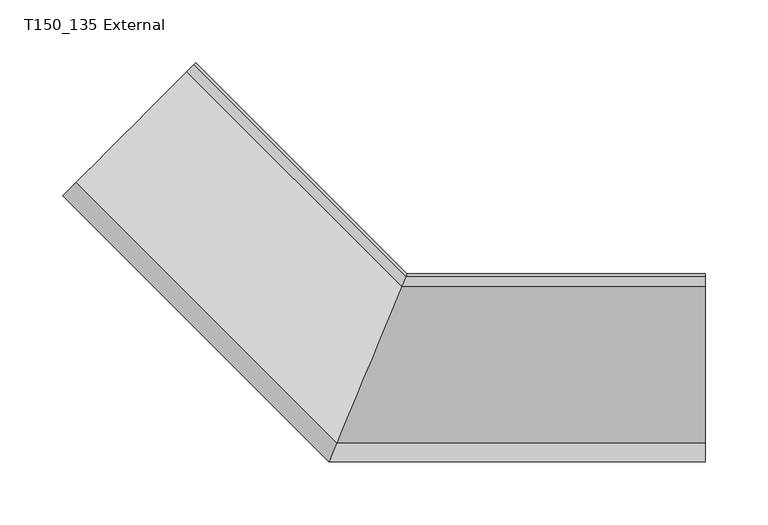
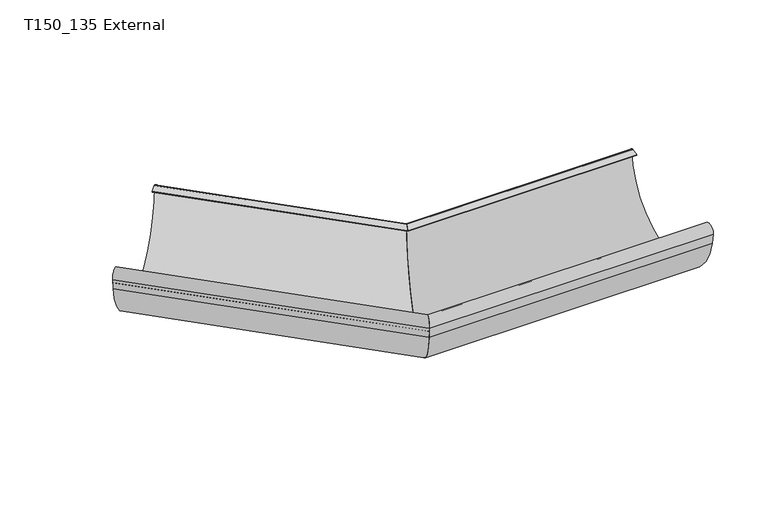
"""IFC4 building model written with IfcOpenShell, lengths in millimetres: proxy geometry, GROVIK_Gutter_Corner : T150_135 External."""

from ifc_helpers import new_model, si_unit, frame, origin, place, context, project, spatial, polyline, circle_curve, ellipse_curve, source, transform, mapped, element, save
from ifc_brep_helpers import plane_surface, cylinder_surface, revolved_surface, advanced_brep


def t150_135_external_eda57ce1(model_context):
    return source(origin(), model_context, "Body", "AdvancedBrep", [
        advanced_brep(
        [(-4.1190209, -9.9441961, -1.4092855), (-4.0533893, -9.7857475, -2.295228), (-0.9516586, -2.2975071, -0.9559749), (-0.415851, -1.0039531, -2.0540157), (-61.0790929, -147.4579744, -16.0293209), (-61.7570453, -149.0946963, -5.3813466), (-60.8707962, -146.9551017, -9.9710741), (-61.0693166, -147.4343725, -8.9478528), (-61.3036072, -148.0, -5.4006666), (-61.6712296, -148.8875189, -5.5500325), (-61.4429398, -148.3363785, -9.0063664), (-61.13463, -147.5920528, -10.6080252), (-62.1320344, -150.0, -5.2006666), (-61.4847081, -148.4372161, -16.2320172), (0.0, 0.0, -1.8), (-0.9113007, -2.2000746, -0.0242687), (-169.7537392, 166.6423639, -0.0242687), (-168.1980515, 168.1980515, -1.8), (-273.1590136, 63.2370895, -16.2320172), (-274.2640687, 62.1320344, -5.2006666), (-272.5613929, 63.8347102, -10.6080252), (-273.0877107, 63.3083924, -9.0063664), (-273.4774258, 62.9186773, -5.5500325), (-272.8498551, 63.5462479, -5.4006666), (-272.4498961, 63.946207, -8.9478528), (-272.1110005, 64.2851026, -9.9710741), (-273.6239223, 62.7721808, -5.3813466), (-272.4665852, 63.9295179, -16.0293209), (-168.9073737, 167.4887294, -2.054027), (-169.8226344, 166.5734687, -0.9559749), (-175.1176199, 161.2784831, -2.295228), (-175.22966, 161.1664431, -1.4092855)],
        [
            (0, 1),
            (1, 2),
            (2, 3, ellipse_curve(frame((-0.8714423, -2.1038477, -2.0387934), z_axis=(-0.9238795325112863, 0.38268343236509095, 0.0), x_axis=(-0.382683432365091, -0.9238795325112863, 0.0)), 1.1906314, 1.1)),
            (3, 4, ellipse_curve(frame((-31.0639705, -74.995059, -1.03), z_axis=(-0.9238795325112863, 0.38268343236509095, 0.0), x_axis=(-0.382683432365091, -0.9238795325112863, 0.0)), 80.0959532, 73.9990118)),
            (4, 5),
            (5, 6, ellipse_curve(frame((-59.0254326, -142.5, -5.1006666), z_axis=(-0.9238795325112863, 0.38268343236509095, 0.0), x_axis=(-0.382683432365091, -0.9238795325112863, 0.0)), 7.1445101, 6.6006666)),
            (6, 7, ellipse_curve(frame((-60.2328683, -145.4150076, -8.6258487), z_axis=(-0.9238795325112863, 0.38268343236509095, 0.0), x_axis=(-0.382683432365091, -0.9238795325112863, 0.0)), 2.2133587, 2.0448768)),
            (7, 8),
            (8, 9),
            (9, 10),
            (10, 11, ellipse_curve(frame((-60.1216116, -145.1464101, -8.4977001), z_axis=(0.9238795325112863, -0.38268343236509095, 0.0), x_axis=(0.382683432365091, 0.9238795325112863, 0.0)), 3.4964184, 3.2302694)),
            (11, 12, ellipse_curve(frame((-59.0254326, -142.5, -5.1006666), z_axis=(0.9238795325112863, -0.38268343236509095, 0.0), x_axis=(0.382683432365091, 0.9238795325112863, 0.0)), 8.1186631, 7.5006666)),
            (12, 13),
            (13, 14, ellipse_curve(frame((-31.0639705, -74.995059, -1.03), z_axis=(0.9238795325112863, -0.38268343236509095, 0.0), x_axis=(0.382683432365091, 0.9238795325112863, 0.0)), 81.1783454, 74.9990118)),
            (14, 15, ellipse_curve(frame((-0.785915, -1.8973666, -1.9), z_axis=(0.9238795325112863, -0.38268343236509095, 0.0), x_axis=(0.382683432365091, 0.9238795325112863, 0.0)), 2.0565452, 1.9)),
            (15, 0),
            (16, 17, circle_curve(frame((-169.5396923, 166.8564107, -1.9), z_axis=(-0.707106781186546, 0.7071067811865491, 0.0), x_axis=(-0.7071067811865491, -0.707106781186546, 0.0)), 1.9)),
            (17, 18, circle_curve(frame((-221.2275663, 115.1685368, -1.03), z_axis=(-0.707106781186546, 0.7071067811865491, 0.0), x_axis=(0.7071067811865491, 0.707106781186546, 0.0)), 74.9990118)),
            (18, 19),
            (19, 20, circle_curve(frame((-268.9607679, 67.4353352, -5.1006666), z_axis=(-0.707106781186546, 0.7071067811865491, 0.0), x_axis=(-0.7071067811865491, -0.707106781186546, 0.0)), 7.5006666)),
            (20, 21, circle_curve(frame((-270.8320624, 65.5640407, -8.4977001), z_axis=(-0.707106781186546, 0.7071067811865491, 0.0), x_axis=(-0.7071067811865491, -0.707106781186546, 0.0)), 3.2302694)),
            (21, 22),
            (22, 23),
            (23, 24),
            (24, 25, circle_curve(frame((-271.0219895, 65.3741136, -8.6258487), z_axis=(0.707106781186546, -0.7071067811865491, 0.0), x_axis=(-0.7071067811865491, -0.707106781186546, 0.0)), 2.0448768)),
            (25, 26, circle_curve(frame((-268.9607679, 67.4353352, -5.1006666), z_axis=(0.707106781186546, -0.7071067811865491, 0.0), x_axis=(-0.7071067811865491, -0.707106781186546, 0.0)), 6.6006666)),
            (26, 27),
            (27, 28, circle_curve(frame((-221.2275663, 115.1685368, -1.03), z_axis=(0.707106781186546, -0.7071067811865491, 0.0), x_axis=(0.7071067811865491, 0.707106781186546, 0.0)), 73.9990118)),
            (28, 29, circle_curve(frame((-169.6856965, 166.7104065, -2.0387934), z_axis=(0.707106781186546, -0.7071067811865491, 0.0), x_axis=(-0.7071067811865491, -0.707106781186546, 0.0)), 1.1)),
            (29, 30),
            (30, 31),
            (31, 16),
            (31, 0),
            (15, 16),
            (30, 1),
            (29, 2),
            (28, 3),
            (27, 4),
            (26, 5),
            (25, 6),
            (24, 7),
            (23, 8),
            (22, 9),
            (21, 10),
            (20, 11),
            (19, 12),
            (18, 13),
            (17, 14),
        ],
        [
            plane_surface(frame((-82.8427125, -200.0, 250.0), z_axis=(0.9238795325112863, -0.38268343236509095, 0.0), x_axis=(0.0, 0.0, -1.0))),
            plane_surface(frame((-168.1980515, 168.1980515, 0.0), z_axis=(-0.707106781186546, 0.7071067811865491, 0.0), x_axis=(0.0, 0.0, 1.0))),
            plane_surface(frame((-169.7537392, 166.6423639, -0.0242687), z_axis=(-0.12448897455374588, -0.12448897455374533, 0.9843805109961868), x_axis=(0.707106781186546, -0.7071067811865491, 0.0))),
            plane_surface(frame((-175.22966, 161.1664431, -1.4092855), z_axis=(-0.6960621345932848, -0.6960621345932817, -0.17605399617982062), x_axis=(0.707106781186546, -0.7071067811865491, 0.0))),
            plane_surface(frame((-175.1176199, 161.2784831, -2.295228), z_axis=(0.12448897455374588, 0.12448897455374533, -0.9843805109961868), x_axis=(0.707106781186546, -0.7071067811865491, 0.0))),
            revolved_surface(polyline([(-1.327077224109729, -3.2038476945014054, -2.0387934), (-170.46351400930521, 165.93258909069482, -2.0387934)]), (-169.6856965, 166.7104065, -2.0387934), (0.707106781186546, -0.7071067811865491, 0.0)),
            revolved_surface(polyline([(42.935041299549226, -44.34366470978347, -1.03), (-168.90236325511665, 167.49373984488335, -1.03)]), (-221.2275663, 115.1685368, -1.03), (0.707106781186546, -0.7071067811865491, 0.0)),
            plane_surface(frame((-272.4665852, 63.9295179, -16.0293209), z_axis=(0.6988984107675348, 0.6988984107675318, 0.1519276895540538), x_axis=(0.707106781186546, -0.7071067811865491, 0.0))),
            revolved_surface(polyline([(-61.75951826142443, -149.1006666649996, -5.1006666), (-273.62814401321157, 62.76795908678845, -5.1006666)]), (-268.9607679, 67.4353352, -5.1006666), (0.707106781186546, -0.7071067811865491, 0.0)),
            revolved_surface(polyline([(-61.07988400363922, -147.45988440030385, -8.6258487), (-272.4679357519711, 63.92816734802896, -8.6258487)]), (-271.0219895, 65.3741136, -8.6258487), (0.707106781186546, -0.7071067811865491, 0.0)),
            plane_surface(frame((-272.4498961, 63.946207, -8.9478528), z_axis=(0.6982849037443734, 0.6982849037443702, 0.15746868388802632), x_axis=(0.707106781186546, -0.7071067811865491, 0.0))),
            plane_surface(frame((-272.8498551, 63.5462479, -5.4006666), z_axis=(-0.11735288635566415, -0.11735288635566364, 0.9861321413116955), x_axis=(0.707106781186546, -0.7071067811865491, 0.0))),
            plane_surface(frame((-273.4774258, 62.9186773, -5.5500325), z_axis=(-0.6982849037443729, -0.6982849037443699, -0.1574686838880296), x_axis=(0.707106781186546, -0.7071067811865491, 0.0))),
            cylinder_surface(frame((-270.8320624, 65.5640407, -8.4977001), z_axis=(-0.707106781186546, 0.7071067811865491, 0.0), x_axis=(-0.7071067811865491, -0.707106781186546, 0.0)), 3.2302694),
            cylinder_surface(frame((-268.9607679, 67.4353352, -5.1006666), z_axis=(-0.707106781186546, 0.7071067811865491, 0.0), x_axis=(-0.7071067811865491, -0.707106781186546, 0.0)), 7.5006666),
            plane_surface(frame((-274.2640687, 62.1320344, -5.2006666), z_axis=(-0.7001161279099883, -0.7001161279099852, -0.14026694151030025), x_axis=(0.707106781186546, -0.7071067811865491, 0.0))),
            cylinder_surface(frame((-221.2275663, 115.1685368, -1.03), z_axis=(-0.707106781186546, 0.7071067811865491, 0.0), x_axis=(0.7071067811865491, 0.707106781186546, 0.0)), 74.9990118),
            cylinder_surface(frame((-169.5396923, 166.8564107, -1.9), z_axis=(-0.707106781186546, 0.7071067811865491, 0.0), x_axis=(-0.7071067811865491, -0.707106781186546, 0.0)), 1.9),
        ],
        [
            (0, [[1, 2, 3, 4, 5, 6, 7, 8, 9, 10, 11, 12, 13, 14, 15, 16]]),
            (1, [[17, 18, 19, 20, 21, 22, 23, 24, 25, 26, 27, 28, 29, 30, 31, 32]]),
            (2, [[33, -16, 34, -32]]),
            (3, [[35, -1, -33, -31]]),
            (4, [[36, -2, -35, -30]]),
            (5, [[37, -3, -36, -29]]),
            (6, [[38, -4, -37, -28]]),
            (7, [[39, -5, -38, -27]]),
            (8, [[40, -6, -39, -26]]),
            (9, [[41, -7, -40, -25]]),
            (10, [[42, -8, -41, -24]]),
            (11, [[43, -9, -42, -23]]),
            (12, [[44, -10, -43, -22]]),
            (13, [[45, -11, -44, -21]]),
            (14, [[46, -12, -45, -20]]),
            (15, [[47, -13, -46, -19]]),
            (16, [[48, -14, -47, -18]]),
            (17, [[-34, -15, -48, -17]]),
        ],
    ),
        advanced_brep(
        [(-4.1190209, -9.9441961, -1.4092855), (-0.9113007, -2.2000746, -0.0242687), (0.0, 0.0, -1.8), (-61.4847081, -148.4372161, -16.2320172), (-62.1320344, -150.0, -5.2006666), (-61.13463, -147.5920528, -10.6080252), (-61.4429398, -148.3363785, -9.0063664), (-61.6712296, -148.8875189, -5.5500325), (-61.3036072, -148.0, -5.4006666), (-61.0693166, -147.4343725, -8.9478528), (-60.8707962, -146.9551017, -9.9710741), (-61.7570453, -149.0946963, -5.3813466), (-61.0790929, -147.4579744, -16.0293209), (-0.4155113, -1.003133, -2.054027), (-0.9516586, -2.2975071, -0.9559749), (-4.0533893, -9.7857475, -2.295228), (237.8679656, -2.2000746, -0.0242687), (237.8679656, -9.9441961, -1.4092855), (237.8679656, -9.7857475, -2.295228), (237.8679656, -2.2975071, -0.9559749), (237.8679656, -1.0039531, -2.0540157), (237.8679656, -147.4579744, -16.0293209), (237.8679656, -149.0946963, -5.3813466), (237.8679656, -146.9551017, -9.9710741), (237.8679656, -147.4343725, -8.9478528), (237.8679656, -148.0, -5.4006666), (237.8679656, -148.8875189, -5.5500325), (237.8679656, -148.3363785, -9.0063664), (237.8679656, -147.5920528, -10.6080252), (237.8679656, -150.0, -5.2006666), (237.8679656, -148.4372161, -16.2320172), (237.8679656, 0.0, -1.8)],
        [
            (0, 1),
            (1, 2, ellipse_curve(frame((-0.785915, -1.8973666, -1.9), z_axis=(-0.9238795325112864, 0.38268343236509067, 0.0), x_axis=(0.3826834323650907, 0.9238795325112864, 0.0)), 2.0565452, 1.9)),
            (2, 3, ellipse_curve(frame((-31.0639705, -74.995059, -1.03), z_axis=(-0.9238795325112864, 0.38268343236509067, 0.0), x_axis=(0.3826834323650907, 0.9238795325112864, 0.0)), 81.1783454, 74.9990118)),
            (3, 4),
            (4, 5, ellipse_curve(frame((-59.0254326, -142.5, -5.1006666), z_axis=(-0.9238795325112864, 0.38268343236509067, 0.0), x_axis=(0.3826834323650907, 0.9238795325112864, 0.0)), 8.1186631, 7.5006666)),
            (5, 6, ellipse_curve(frame((-60.1216116, -145.1464101, -8.4977001), z_axis=(-0.9238795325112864, 0.38268343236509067, 0.0), x_axis=(0.3826834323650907, 0.9238795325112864, 0.0)), 3.4964184, 3.2302694)),
            (6, 7),
            (7, 8),
            (8, 9),
            (9, 10, ellipse_curve(frame((-60.2328683, -145.4150076, -8.6258487), z_axis=(0.9238795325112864, -0.38268343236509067, 0.0), x_axis=(-0.3826834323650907, -0.9238795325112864, 0.0)), 2.2133587, 2.0448768)),
            (10, 11, ellipse_curve(frame((-59.0254326, -142.5, -5.1006666), z_axis=(0.9238795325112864, -0.38268343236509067, 0.0), x_axis=(-0.3826834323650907, -0.9238795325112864, 0.0)), 7.1445101, 6.6006666)),
            (11, 12),
            (12, 13, ellipse_curve(frame((-31.0639705, -74.995059, -1.03), z_axis=(0.9238795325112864, -0.38268343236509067, 0.0), x_axis=(-0.3826834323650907, -0.9238795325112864, 0.0)), 80.0959532, 73.9990118)),
            (13, 14, ellipse_curve(frame((-0.8714423, -2.1038477, -2.0387934), z_axis=(0.9238795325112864, -0.38268343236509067, 0.0), x_axis=(-0.3826834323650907, -0.9238795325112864, 0.0)), 1.1906314, 1.1)),
            (14, 15),
            (15, 0),
            (16, 17),
            (17, 18),
            (18, 19),
            (19, 20, circle_curve(frame((237.8679656, -2.1038477, -2.0387934), z_axis=(-1.0, 0.0, 0.0), x_axis=(0.0, -1.0, 0.0)), 1.1)),
            (20, 21, circle_curve(frame((237.8679656, -74.995059, -1.03), z_axis=(-1.0, 0.0, 0.0), x_axis=(0.0, 1.0, 0.0)), 73.9990118)),
            (21, 22),
            (22, 23, circle_curve(frame((237.8679656, -142.5, -5.1006666), z_axis=(-1.0, 0.0, 0.0), x_axis=(0.0, -1.0, 0.0)), 6.6006666)),
            (23, 24, circle_curve(frame((237.8679656, -145.4150076, -8.6258487), z_axis=(-1.0, 0.0, 0.0), x_axis=(0.0, -1.0, 0.0)), 2.0448768)),
            (24, 25),
            (25, 26),
            (26, 27),
            (27, 28, circle_curve(frame((237.8679656, -145.1464101, -8.4977001), z_axis=(1.0, 0.0, 0.0), x_axis=(0.0, -1.0, 0.0)), 3.2302694)),
            (28, 29, circle_curve(frame((237.8679656, -142.5, -5.1006666), z_axis=(1.0, 0.0, 0.0), x_axis=(0.0, -1.0, 0.0)), 7.5006666)),
            (29, 30),
            (30, 31, circle_curve(frame((237.8679656, -74.995059, -1.03), z_axis=(1.0, 0.0, 0.0), x_axis=(0.0, 1.0, 0.0)), 74.9990118)),
            (31, 16, circle_curve(frame((237.8679656, -1.8973666, -1.9), z_axis=(1.0, 0.0, 0.0), x_axis=(0.0, -1.0, 0.0)), 1.9)),
            (16, 1),
            (0, 17),
            (15, 18),
            (14, 19),
            (13, 20),
            (12, 21),
            (11, 22),
            (10, 23),
            (9, 24),
            (8, 25),
            (7, 26),
            (6, 27),
            (5, 28),
            (4, 29),
            (3, 30),
            (2, 31),
        ],
        [
            plane_surface(frame((-82.8427125, -200.0, 250.0), z_axis=(-0.9238795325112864, 0.38268343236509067, 0.0), x_axis=(0.0, 0.0, -1.0))),
            plane_surface(frame((237.8679656, 0.0, 0.0), z_axis=(1.0, 0.0, 0.0), x_axis=(0.0, 0.0, 1.0))),
            plane_surface(frame((237.8679656, -2.2000746, -0.0242687), z_axis=(0.0, -0.17605399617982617, 0.9843805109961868), x_axis=(-1.0, 0.0, 0.0))),
            plane_surface(frame((237.8679656, -9.9441961, -1.4092855), z_axis=(0.0, -0.9843805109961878, -0.1760539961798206), x_axis=(-1.0, 0.0, 0.0))),
            plane_surface(frame((237.8679656, -9.7857475, -2.295228), z_axis=(0.0, 0.17605399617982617, -0.9843805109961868), x_axis=(-1.0, 0.0, 0.0))),
            revolved_surface(polyline([(-1.3270772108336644, -3.2038477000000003, -2.0387934), (237.8679656, -3.2038477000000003, -2.0387934)]), (237.8679656, -2.1038477, -2.0387934), (-1.0, 0.0, 0.0)),
            revolved_surface(polyline([(-61.71536478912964, -0.9960471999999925, -1.03), (237.8679656, -0.9960471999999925, -1.03)]), (237.8679656, -74.995059, -1.03), (-1.0, 0.0, 0.0)),
            plane_surface(frame((237.8679656, -147.4579744, -16.0293209), z_axis=(0.0, 0.9883916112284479, 0.15192768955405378), x_axis=(-1.0, 0.0, 0.0))),
            revolved_surface(polyline([(-61.75951824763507, -149.1006666, -5.1006666), (237.8679656, -149.1006666, -5.1006666)]), (237.8679656, -142.5, -5.1006666), (-1.0, 0.0, 0.0)),
            revolved_surface(polyline([(-61.07988400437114, -147.4598844, -8.6258487), (237.8679656, -147.4598844, -8.6258487)]), (237.8679656, -145.4150076, -8.6258487), (-1.0, 0.0, 0.0)),
            plane_surface(frame((237.8679656, -147.4343725, -8.9478528), z_axis=(0.0, 0.9875239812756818, 0.1574686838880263), x_axis=(-1.0, 0.0, 0.0))),
            plane_surface(frame((237.8679656, -148.0, -5.4006666), z_axis=(0.0, -0.1659620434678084, 0.9861321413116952), x_axis=(-1.0, 0.0, 0.0))),
            plane_surface(frame((237.8679656, -148.8875189, -5.5500325), z_axis=(0.0, -0.9875239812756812, -0.15746868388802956), x_axis=(-1.0, 0.0, 0.0))),
            cylinder_surface(frame((237.8679656, -145.1464101, -8.4977001), z_axis=(1.0, 0.0, 0.0), x_axis=(0.0, -1.0, 0.0)), 3.2302694),
            cylinder_surface(frame((237.8679656, -142.5, -5.1006666), z_axis=(1.0, 0.0, 0.0), x_axis=(0.0, -1.0, 0.0)), 7.5006666),
            plane_surface(frame((237.8679656, -150.0, -5.2006666), z_axis=(0.0, -0.9901137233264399, -0.14026694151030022), x_axis=(-1.0, 0.0, 0.0))),
            cylinder_surface(frame((237.8679656, -74.995059, -1.03), z_axis=(1.0, 0.0, 0.0), x_axis=(0.0, 1.0, 0.0)), 74.9990118),
            cylinder_surface(frame((237.8679656, -1.8973666, -1.9), z_axis=(1.0, 0.0, 0.0), x_axis=(0.0, -1.0, 0.0)), 1.9),
        ],
        [
            (0, [[1, 2, 3, 4, 5, 6, 7, 8, 9, 10, 11, 12, 13, 14, 15, 16]]),
            (1, [[17, 18, 19, 20, 21, 22, 23, 24, 25, 26, 27, 28, 29, 30, 31, 32]]),
            (2, [[-17, 33, -1, 34]]),
            (3, [[-18, -34, -16, 35]]),
            (4, [[-19, -35, -15, 36]]),
            (5, [[-20, -36, -14, 37]]),
            (6, [[-21, -37, -13, 38]]),
            (7, [[-22, -38, -12, 39]]),
            (8, [[-23, -39, -11, 40]]),
            (9, [[-24, -40, -10, 41]]),
            (10, [[-25, -41, -9, 42]]),
            (11, [[-26, -42, -8, 43]]),
            (12, [[-27, -43, -7, 44]]),
            (13, [[-28, -44, -6, 45]]),
            (14, [[-29, -45, -5, 46]]),
            (15, [[-30, -46, -4, 47]]),
            (16, [[-31, -47, -3, 48]]),
            (17, [[-32, -48, -2, -33]]),
        ],
    ),
    ])


if __name__ == "__main__":
    model = new_model("IFC4")
    model_context = context("Model", 3, world=origin())
    ifc_project = project(units=[si_unit("LENGTHUNIT", "METRE", prefix="MILLI")], contexts=[model_context])
    site = spatial("IfcSite", under=ifc_project)
    building = spatial("IfcBuilding", under=site)
    placement = place(None, origin())
    t150_135_external_shape = t150_135_external_eda57ce1(model_context)
    element("IfcBuildingElementProxy", 1, Name="GROVIK_Gutter_Corner : T150_135 External", ObjectType="GROVIK_Gutter_Corner : T150_135 External", at=placement, inside=building, context=model_context, shape_type="MappedRepresentation", body=[
        mapped(t150_135_external_shape, transform((0.0, 0.0, 0.0), x_axis=(1.0, 0.0, 0.0), y_axis=(0.0, 1.0, 0.0), z_axis=(0.0, 0.0, 1.0))),
    ])
    save(model, "model.ifc")
